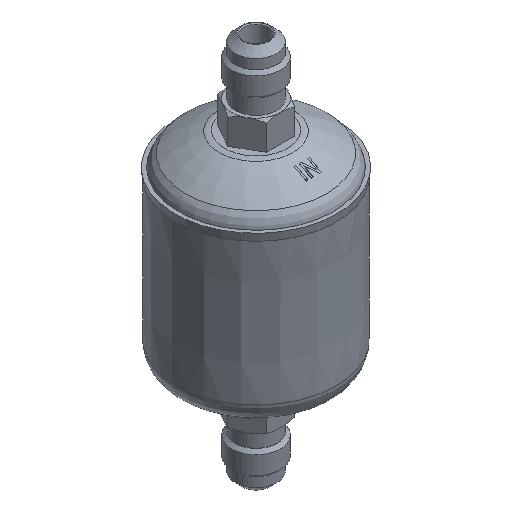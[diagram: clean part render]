
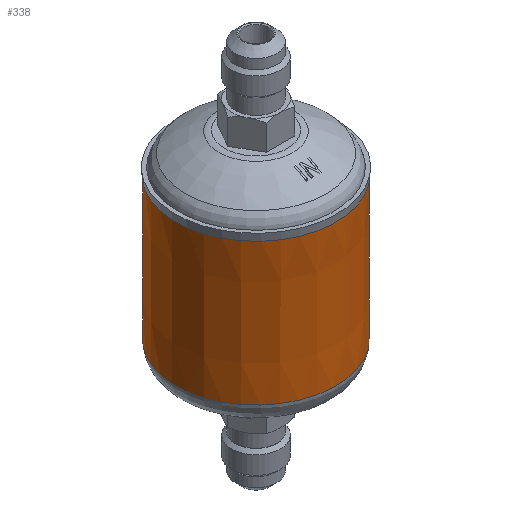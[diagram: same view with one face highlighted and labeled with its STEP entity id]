
A CAD part, isometric view. The second image highlights one B-rep face of the part: STEP entity #338.
In plain terms, the highlighted conical face has half-angle 0.058 degrees and reference radius 26.25 mm.
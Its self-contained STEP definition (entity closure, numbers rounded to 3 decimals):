
#122=CONICAL_SURFACE('',#3411,26.25,0.058);
#338=ADVANCED_FACE('',(#739,#1152),#122,.T.);
#739=FACE_BOUND('',#1351,.T.);
#1152=FACE_OUTER_BOUND('',#1352,.T.);
#1351=EDGE_LOOP('',(#1907));
#1352=EDGE_LOOP('',(#1908));
#1907=ORIENTED_EDGE('',*,*,#2829,.T.);
#1908=ORIENTED_EDGE('',*,*,#2830,.T.);
#2521=VERTEX_POINT('',#5111);
#2522=VERTEX_POINT('',#5113);
#2829=EDGE_CURVE('',#2521,#2521,#3136,.T.);
#2830=EDGE_CURVE('',#2522,#2522,#3137,.T.);
#3136=CIRCLE('',#3409,26.253);
#3137=CIRCLE('',#3410,26.3);
#3409=AXIS2_PLACEMENT_3D('',#5110,#3999,#4000);
#3410=AXIS2_PLACEMENT_3D('',#5112,#4001,#4002);
#3411=AXIS2_PLACEMENT_3D('',#5114,#4003,#4004);
#3999=DIRECTION('',(0.,0.,1.));
#4000=DIRECTION('',(-0.924,0.383,0.));
#4001=DIRECTION('',(0.,0.,-1.));
#4002=DIRECTION('',(-0.924,0.383,0.));
#4003=DIRECTION('',(0.,0.,1.));
#4004=DIRECTION('',(0.924,-0.383,0.));
#5110=CARTESIAN_POINT('',(0.427,0.,-27.289));
#5111=CARTESIAN_POINT('',(-23.824,10.056,-27.289));
#5112=CARTESIAN_POINT('',(0.427,0.,19.222));
#5113=CARTESIAN_POINT('',(-23.868,10.074,19.222));
#5114=CARTESIAN_POINT('',(0.427,0.,-30.278));
